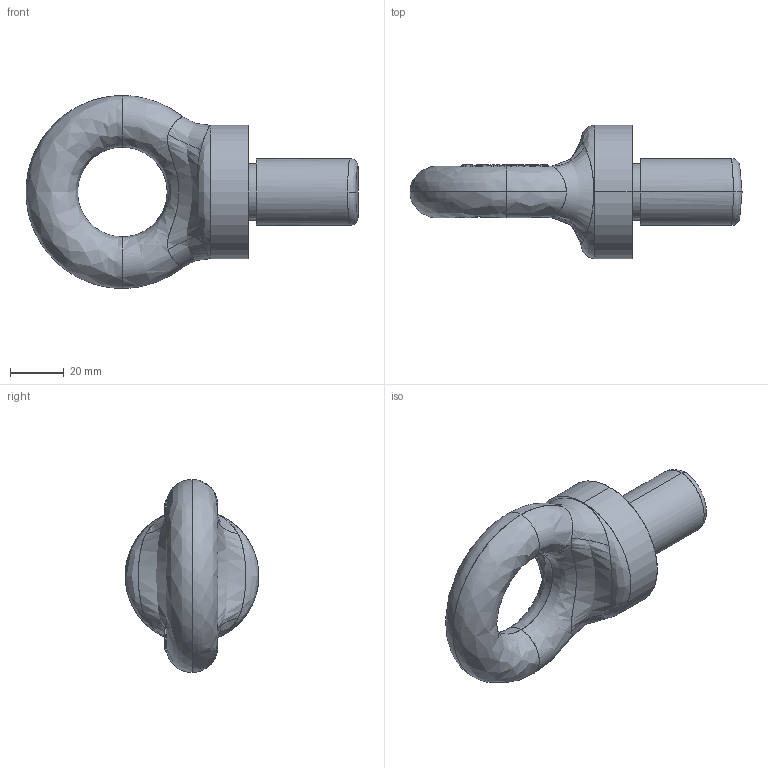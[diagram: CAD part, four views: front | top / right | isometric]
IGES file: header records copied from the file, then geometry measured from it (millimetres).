
Start section: SolidWorks IGES FILE using analytic representation for surfaces
Global section: file name: C:\Documents and Settings\Townley Workstation\Desktop\tooling\Townley products\Eye bolts\EBB875\Model\Finished part drawings\EBB875.IGS; native system: SolidWorks 2004 by SolidWorks Corporation; preprocessor: Version 5.3; author: Townley Workstation; date: 091119.135534; units: millimetre
Bounding box: 124.12 x 50 x 72.1 mm (x, y, z)
Surface area: 18045.8 mm2 (no closed solid volume)
Topology: 0 solids, 0 shells, 224 faces, 2940 edges, 2940 vertices
Faces by surface type: bspline 218, revolution 6
